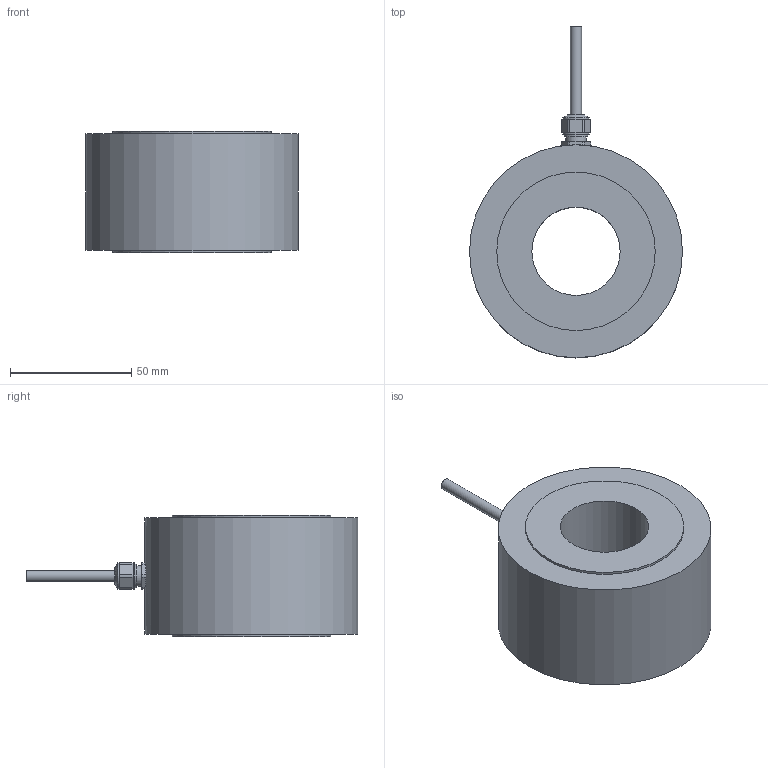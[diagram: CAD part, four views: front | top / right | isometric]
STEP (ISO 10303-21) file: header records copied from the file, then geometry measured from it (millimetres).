
FILE_DESCRIPTION(/* description */ (''),/* implementation_level */ '2;1');
FILE_NAME(/* name */ 'I:/New Datasheets/STEP Models/Pending models/CCG-540kN-003-000.step',/* time_stamp */ '2019-08-16T13:41:04+01:00',/* author */ (''),/* organization */ (''),/* preprocessor_version */ 'ST-DEVELOPER v18',/* originating_system */ 'Autodesk Translation Framework v8.6.0.1094',/* authorisation */ '');
FILE_SCHEMA (('AUTOMOTIVE_DESIGN { 1 0 10303 214 3 1 1 }'));
Length unit declared in the file: millimetre
Products named in the file (2): CCG-540kN-003-000 -; CCG-540kN-003-000
Assembly tree (1 placements, depth 2):
  CCG-540kN-003-000 -
    CCG-540kN-003-000
Bounding box: 88 x 137.13 x 50 mm (x, y, z)
Volume: 247744.3 mm3; surface area: 31465.1 mm2
Topology: 1 solids, 5 shells, 87 faces, 216 edges, 151 vertices
Faces by surface type: plane 34, cylinder 32, cone 12, torus 9
Full cylindrical faces by diameter (mm): 4.6 x2, 5.1 x1, 5.2 x1, 6.466 x2, 6.7 x1, 6.779 x2, 8.596 x1, 9 x1, 9.15 x1, 9.794 x1, 10.9 x2, 12.5 x1, 36.5 x1, 65.5 x2, 88 x1
Entity records: 2766 total; most frequent: CARTESIAN_POINT 515, DIRECTION 514, ORIENTED_EDGE 430, AXIS2_PLACEMENT_3D 223, EDGE_CURVE 215, VERTEX_POINT 151, CIRCLE 133, EDGE_LOOP 108
